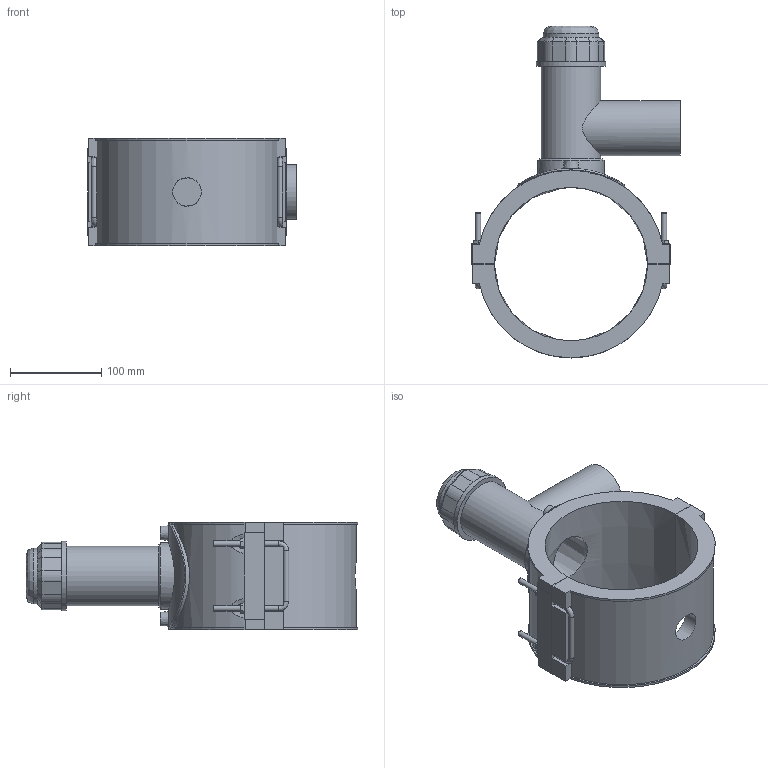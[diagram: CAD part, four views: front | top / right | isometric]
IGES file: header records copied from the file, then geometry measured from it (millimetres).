
Global section: file name: 5963BB03060020.ipt; native system: Autodesk Inventor 2019; preprocessor: unknown; author: KIM; date: 20210830.101428; units: millimetre
Bounding box: 228.84 x 363.85 x 118.11 mm (x, y, z)
Volume: 1614539.7 mm3; surface area: 275434.9 mm2
Topology: 1 solids, 1 shells, 195 faces, 507 edges, 330 vertices
Faces by surface type: plane 120, cylinder 35, revolution 20, cone 15, bspline 5
Full cylindrical faces by diameter (mm): 4 x2, 6 x10, 60.1 x1, 61.152 x1, 64.974 x1, 72.618 x1, 76.44 x1, 117.6 x1
